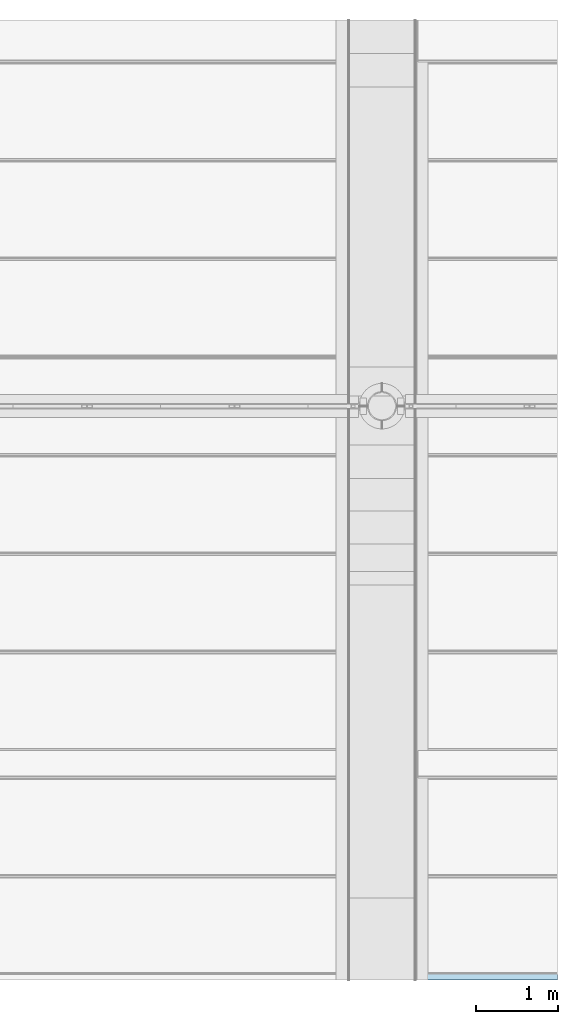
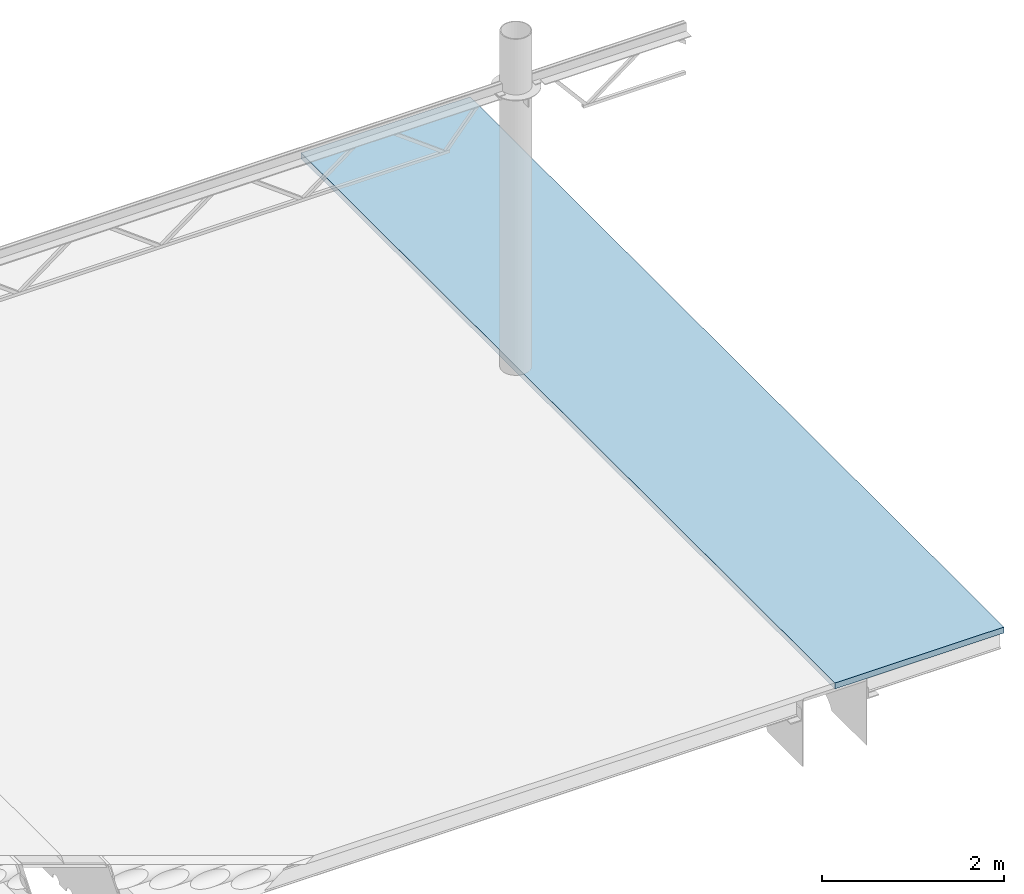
# One storey, part 18 of 21: 1 slab.
"""IFC2X3 building model written with IfcOpenShell, lengths in millimetres."""

from ifc_helpers import new_model, entity, si_unit, converted_unit, derived_unit, direction, frame, origin_with_axes, place, context, subcontext, project, spatial, faceted_brep, type_object, element, save


model = new_model("IFC2X3")

# Units and contexts
model_context = context("Model", 3, precision=0.01, world=frame((0.0, 4.29681676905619e-09, 0.0)), true_north=direction((4.01073788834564e-13, 1.0)))
plan_context = context("Plan", 3, precision=0.01, world=frame((0.0, 4.29681676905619e-09, 0.0)), true_north=direction((4.01073788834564e-13, 1.0)))
body_context = subcontext(model_context, "Body", "Model", "MODEL_VIEW")
ifc_project = project(units=[converted_unit("PLANEANGLEUNIT", "DEGREE", entity("IfcPositiveLengthMeasure", 0.0174532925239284), si_unit("PLANEANGLEUNIT", "RADIAN"), dimensions=[0, 0, 0, 0, 0, 0, 0]), si_unit("AREAUNIT", "SQUARE_METRE"), si_unit("LENGTHUNIT", "METRE", prefix="MILLI"), si_unit("MASSUNIT", "GRAM", prefix="KILO"), si_unit("POWERUNIT", "WATT"), si_unit("PRESSUREUNIT", "PASCAL", prefix="KILO"), si_unit("FORCEUNIT", "NEWTON", prefix="KILO"), si_unit("ELECTRICVOLTAGEUNIT", "VOLT"), si_unit("ELECTRICCURRENTUNIT", "AMPERE"), si_unit("THERMODYNAMICTEMPERATUREUNIT", "DEGREE_CELSIUS"), si_unit("TIMEUNIT", "SECOND"), si_unit("VOLUMEUNIT", "CUBIC_METRE"), derived_unit("LINEARVELOCITYUNIT", [(si_unit("LENGTHUNIT", "METRE"), 1), (si_unit("TIMEUNIT", "SECOND"), -1)]), derived_unit("VOLUMETRICFLOWRATEUNIT", [(si_unit("VOLUMEUNIT", "CUBIC_METRE"), 1), (si_unit("TIMEUNIT", "SECOND"), -1)]), derived_unit("THERMALTRANSMITTANCEUNIT", [(si_unit("POWERUNIT", "WATT"), 1), (si_unit("THERMODYNAMICTEMPERATUREUNIT", "KELVIN"), -1), (si_unit("AREAUNIT", "SQUARE_METRE"), -1)]), derived_unit("SOUNDPRESSUREUNIT", [(si_unit("PRESSUREUNIT", "PASCAL"), 1)])], contexts=[model_context, plan_context])

# Site, building, storey
site_placement = place(None, frame((0.0, -4.29681676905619e-09, 0.0), z_axis=(0.0, 0.0, 1.0), x_axis=(1.0, 0.0, 0.0)))
site = spatial("IfcSite", under=ifc_project, at=site_placement, Name="Gardermoen", CompositionType="ELEMENT")
building_placement = place(site_placement, frame((0.0, 4.29681676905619e-09, 0.0), z_axis=(0.0, 0.0, 1.0), x_axis=(1.0, 0.0, 0.0)))
building = spatial("IfcBuilding", under=site, at=building_placement, Name="TS", CompositionType="ELEMENT")
storey_placement = place(building_placement, origin_with_axes())
storey = spatial("IfcBuildingStorey", under=building, at=storey_placement, Name="F", CompositionType="ELEMENT", Elevation=0.0)

# Slab
slab_type = type_object("IfcSlabType", Name="80*9000", PredefinedType="NOTDEFINED")
slab_placement = place(storey_placement, frame((727000.0, 450500.0, 210835.0), z_axis=(1.0, 0.0, 0.0), x_axis=(0.0, -1.0, 0.0)))
element("IfcSlab", 1, at=slab_placement, inside=storey, type_object=slab_type, Name="PÅSTØP", ObjectType="80*9000", PredefinedType="FLOOR", context=body_context, shape_type="Brep", body=[
    faceted_brep([(4288.5755361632, 39.9999999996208, 1.15970290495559e-09), (4288.5755361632, -39.9999999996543, -1.2489108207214e-09), (16000.9920111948, -39.9999999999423, -2.08634729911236e-10), (16000.9920111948, 39.9999999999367, 1.93732249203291e-10), (16000.9920111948, 40.0, 2142.58978646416), (4288.5755361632, 40.0, 2142.58978646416), (4288.5755361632, -39.9999999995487, 2142.58978646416), (16000.9920111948, -39.999999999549, 2142.58978646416)], [[[0, 1, 2, 3]], [[3, 4, 5, 0]], [[1, 6, 7, 2]], [[7, 6, 5, 4]], [[6, 1, 0, 5]], [[4, 3, 2, 7]]], orient=[[False], [False], [False], [False], [False], [False]]),
])

save(model, "model.ifc")
